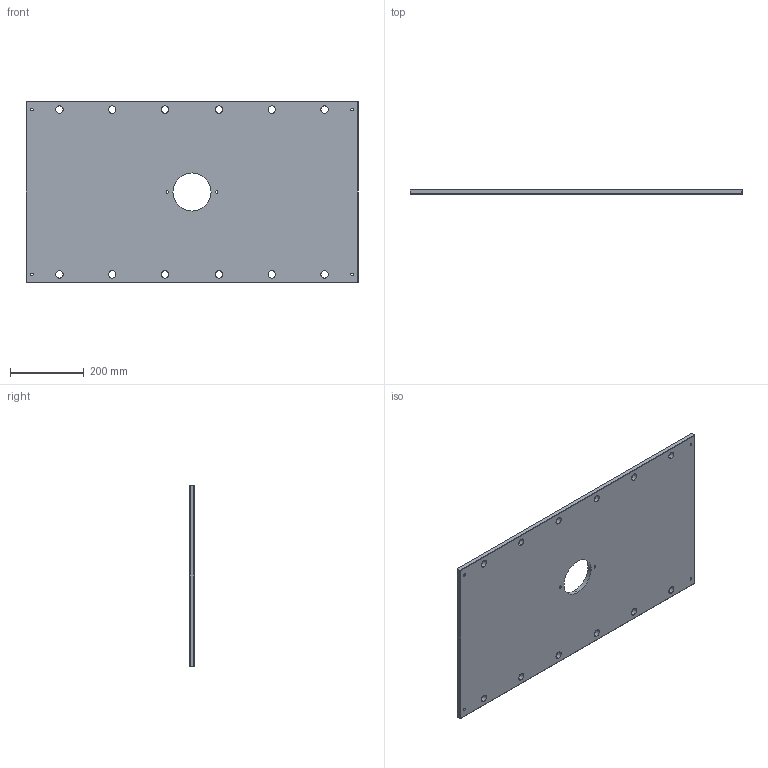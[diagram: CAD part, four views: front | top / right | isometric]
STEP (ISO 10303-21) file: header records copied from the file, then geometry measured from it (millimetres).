
FILE_DESCRIPTION (( 'STEP AP214' ), '1' );
FILE_NAME ('ME-0619-CH-1935.STEP', '2020-02-13T10:21:23', ( '' ), ( '' ), 'SwSTEP 2.0', 'SolidWorks 2018', '' );
FILE_SCHEMA (( 'AUTOMOTIVE_DESIGN' ));
Length unit declared in the file: inch
Products named in the file (1): ME-0619-CH-1935
Bounding box: 898.52 x 12.7 x 492.12 mm (x, y, z)
Volume: 5453895.2 mm3; surface area: 906029.9 mm2
Topology: 1 solids, 1 shells, 76 faces, 186 edges, 112 vertices
Faces by surface type: cylinder 38, plane 26, cone 12
Entity records: 2346 total; most frequent: DIRECTION 428, CARTESIAN_POINT 375, ORIENTED_EDGE 372, EDGE_CURVE 186, AXIS2_PLACEMENT_3D 165, EDGE_LOOP 114, VERTEX_POINT 112, VECTOR 98
